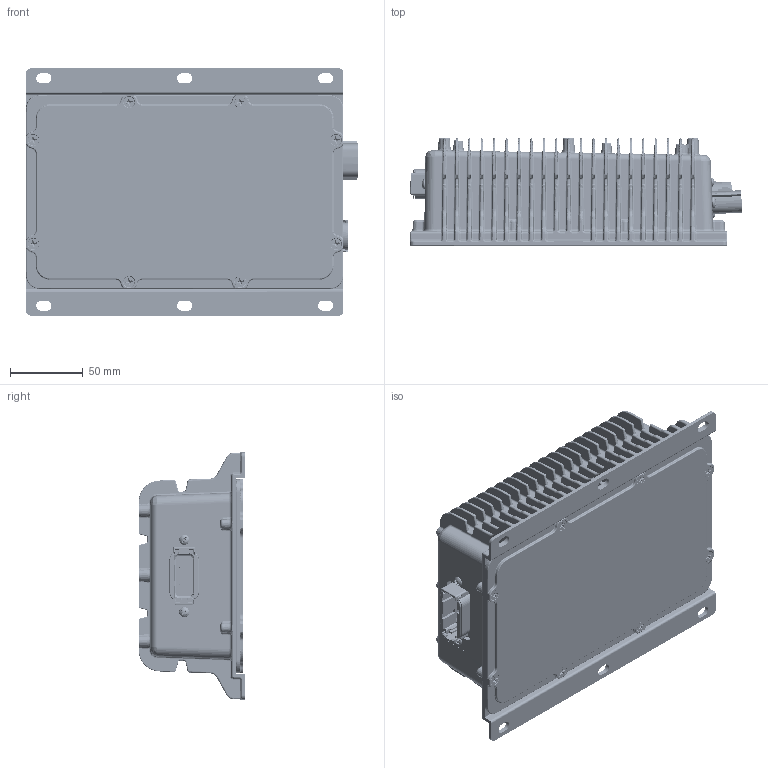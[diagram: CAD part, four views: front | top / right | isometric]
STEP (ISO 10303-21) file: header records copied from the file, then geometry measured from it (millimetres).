
FILE_DESCRIPTION(/* description */ (''),/* implementation_level */ '2;1');
FILE_NAME(/* name */ 'C:\Users\azhao\Documents\21012\Mechanical\Rev 1\STP\FG-AX100250.stp',/* time_stamp */ '2022-03-27T11:50:39-04:00',/* author */ ('azhao'),/* organization */ (''),/* preprocessor_version */ 'ST-DEVELOPER v17',/* originating_system */ 'Autodesk Inventor 2018',/* authorisation */ '');
FILE_SCHEMA (('AUTOMOTIVE_DESIGN { 1 0 10303 214 3 1 1 }'));
Products named in the file (1): FG-AX100250_
Bounding box: 227.44 x 73.23 x 169.35 mm (x, y, z)
Volume: 516430.9 mm3; surface area: 319144.9 mm2
Topology: 6 solids, 15 shells, 8191 faces, 20232 edges, 11984 vertices
Faces by surface type: cylinder 3067, plane 2234, bspline 1742, torus 441, sphere 390, cone 317
Full cylindrical faces by diameter (mm): 1.003 x48, 1.1 x2, 1.702 x2, 2.02 x100, 2.667 x1, 2.845 x92, 3.175 x10, 3.251 x62, 3.912 x1, 4 x34, 4.318 x2, 4.572 x8, 4.877 x3, 4.898 x2, 4.902 x2, 5.69 x3, 5.817 x1, 6 x1, 6.045 x4, 6.604 x6, 6.731 x2, 6.858 x2, 8 x2, 8.128 x2, 8.179 x2, 16.713 x1, 16.739 x1, 21.768 x2, 22.22 x5, 24.257 x1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
Entity records: 376043 total; most frequent: CARTESIAN_POINT 180292, ORIENTED_EDGE 39946, DIRECTION 39408, EDGE_CURVE 19973, AXIS2_PLACEMENT_3D 15138, VERTEX_POINT 11984, LINE 9132, VECTOR 9132
